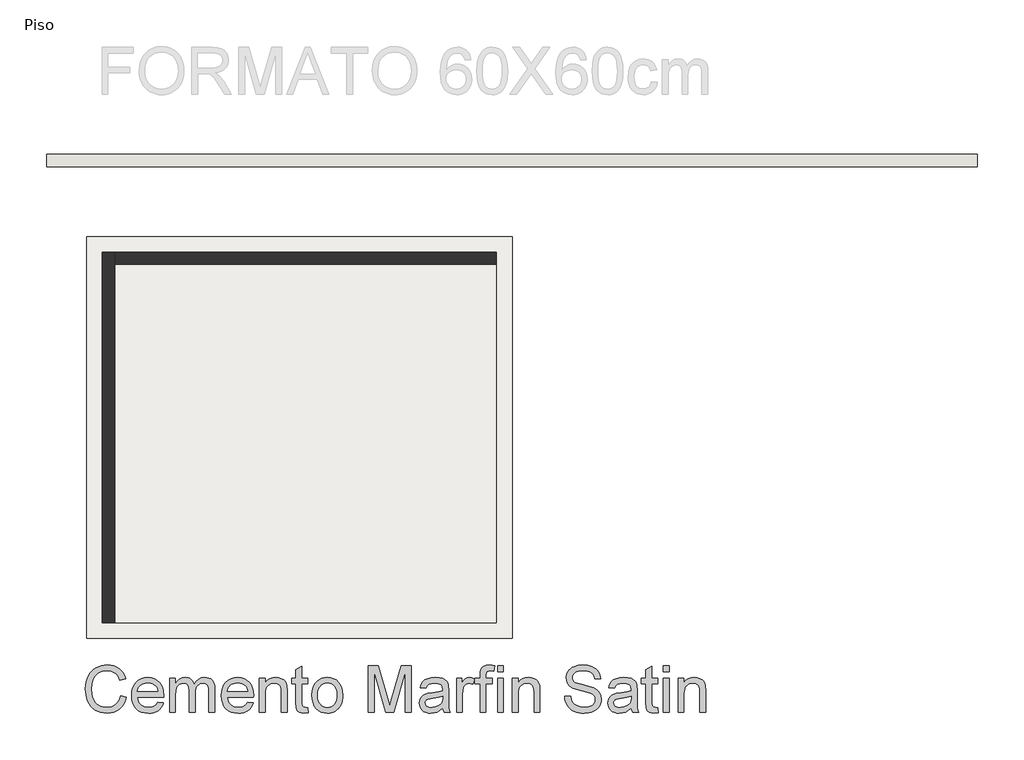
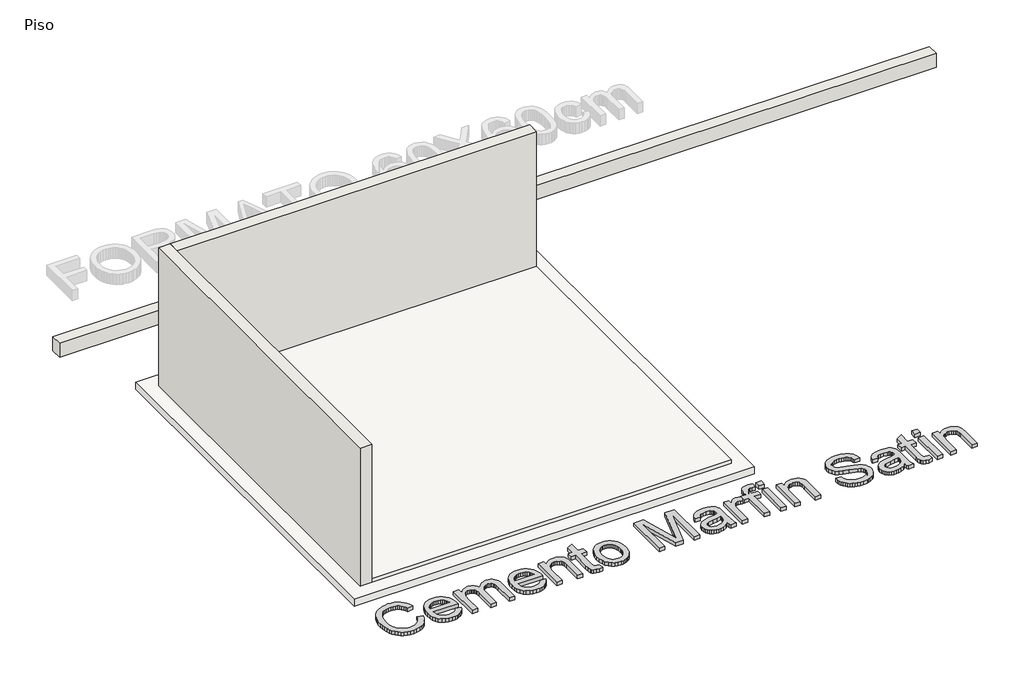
# One storey, part 1 of 2: 3 walls, 2 slabs, 1 proxy.
"""IFC4 building model written with IfcOpenShell, lengths in millimetres."""

import ifcopenshell
import ifcopenshell.guid

model = None  # the IFC model being written
_history = None  # IfcOwnerHistory: only IFC2X3 demands one
_inside = {}  # id of a spatial element -> (the spatial element, [elements in it])
_under = {}  # id of a project, library or spatial element -> (it, [spatial elements below it])
_declared = {}  # id of a project -> (the project, [libraries it declares])
_typed = {}  # id of a type object -> (the type object, [elements of that type])
_made_of = {}  # id of a material, layer set ... -> (it, [elements and type objects made of it])


def new_model(schema):
    """Start an empty IFC model of exactly this schema.

    Asked for "IFC4X3", IfcOpenShell would pick the latest addendum, in which some entities
    have other attributes; the version numbers below select the first issue.
    IFC2X3 requires an IfcOwnerHistory on every rooted entity: one is made here for all.
    """
    global model, _history
    if schema == "IFC4X3":
        model = ifcopenshell.file(schema_version=(4, 3, 0, 0))
    else:
        model = ifcopenshell.file(schema=schema)
    _inside.clear()
    _under.clear()
    _declared.clear()
    _typed.clear()
    _made_of.clear()
    _history = None
    if model.schema == "IFC2X3":
        org = make("IfcOrganization", Name="unknown")
        user = make(
            "IfcPersonAndOrganization",
            ThePerson=make("IfcPerson", FamilyName="unknown"),
            TheOrganization=org,
        )
        app = make(
            "IfcApplication",
            ApplicationDeveloper=org,
            Version="unknown",
            ApplicationFullName="unknown",
            ApplicationIdentifier="unknown",
        )
        _history = make(
            "IfcOwnerHistory",
            OwningUser=user,
            OwningApplication=app,
            ChangeAction="ADDED",
            CreationDate=0,
        )
    return model


def make(cls, **values):
    """One entity of the class cls with the attributes given. An attribute that is None is left unset."""
    return model.create_entity(
        cls, **{name: value for name, value in values.items() if value is not None}
    )


def rooted(cls, **values):
    """An entity with a GlobalId (a new one), such as an element, a storey or a relation."""
    return make(cls, GlobalId=ifcopenshell.guid.new(), OwnerHistory=_history, **values)


def si_unit(unit_type, name, prefix=None):
    """IfcSIUnit, for example si_unit("LENGTHUNIT", "METRE", prefix="MILLI")."""
    return make("IfcSIUnit", UnitType=unit_type, Prefix=prefix, Name=name)


def assignment(units):
    """IfcUnitAssignment: the units of a project."""
    return None if units is None else make("IfcUnitAssignment", Units=units)


def point(xyz):
    """IfcCartesianPoint."""
    return None if xyz is None else make("IfcCartesianPoint", Coordinates=xyz)


def direction(xyz):
    """IfcDirection."""
    return None if xyz is None else make("IfcDirection", DirectionRatios=xyz)


def frame(location, z_axis=None, x_axis=None):
    """IfcAxis2Placement3D, a coordinate frame: its origin and axes. An axis left out is left unset."""
    return make(
        "IfcAxis2Placement3D",
        Location=point(location),
        Axis=direction(z_axis),
        RefDirection=direction(x_axis),
    )


def origin():
    """The frame at (0, 0, 0) with its axes left unset."""
    return frame((0.0, 0.0, 0.0))


def origin_with_axes():
    """The frame at (0, 0, 0) with the z axis (0, 0, 1) and the x axis (1, 0, 0) written out."""
    return frame((0.0, 0.0, 0.0), z_axis=(0.0, 0.0, 1.0), x_axis=(1.0, 0.0, 0.0))


def place(relative_to, where):
    """IfcLocalPlacement: puts the frame where relative to a parent placement (None: the world)."""
    return make(
        "IfcLocalPlacement", PlacementRelTo=relative_to, RelativePlacement=where
    )


def context(
    kind, dimensions, precision=None, world=None, true_north=None, identifier=None
):
    """IfcGeometricRepresentationContext, for example the 3D "Model" context."""
    return make(
        "IfcGeometricRepresentationContext",
        ContextIdentifier=identifier,
        ContextType=kind,
        CoordinateSpaceDimension=dimensions,
        Precision=precision,
        WorldCoordinateSystem=world,
        TrueNorth=true_north,
    )


def project(units=None, contexts=None):
    """IfcProject with its units and contexts."""
    return rooted(
        "IfcProject",
        Name="project",
        RepresentationContexts=contexts,
        UnitsInContext=assignment(units),
    )


def spatial(cls, under=None, at=None, **own):
    """A site, building, storey or space (cls), placed at a placement, below another one or the project."""
    s = rooted(cls, ObjectPlacement=at, **own)
    if under is not None:
        _under.setdefault(under.id(), (under, []))[1].append(s)
    return s


def polyline(points):
    """IfcPolyline through the points."""
    return make("IfcPolyline", Points=[point(p) for p in points])


def outline(outer, holes=None, kind="AREA"):
    """IfcArbitraryClosedProfileDef: a profile drawn as a closed curve; with holes, ...WithVoids."""
    if holes is None:
        return make("IfcArbitraryClosedProfileDef", ProfileType=kind, OuterCurve=outer)
    return make(
        "IfcArbitraryProfileDefWithVoids",
        ProfileType=kind,
        OuterCurve=outer,
        InnerCurves=holes,
    )


def extrude(swept, where, along, depth):
    """IfcExtrudedAreaSolid: the profile swept, set in the frame where, extruded along a direction by depth."""
    return make(
        "IfcExtrudedAreaSolid",
        SweptArea=swept,
        Position=where,
        ExtrudedDirection=direction(along),
        Depth=depth,
    )


def faces_of(points, faces, orient=None, outer=None):
    """IfcFace entities. A face is a list of loops; a loop is a list of indices into points, from 0.

    orient and outer hold one flag for each loop. By default every Orientation is true, the
    first loop of a face is its IfcFaceOuterBound and the others are IfcFaceBound.
    """
    made = []
    for i, loops in enumerate(faces):
        bounds = []
        for j, loop in enumerate(loops):
            is_outer = j == 0 if outer is None else outer[i][j]
            bounds.append(
                make(
                    "IfcFaceOuterBound" if is_outer else "IfcFaceBound",
                    Bound=make("IfcPolyLoop", Polygon=[points[k] for k in loop]),
                    Orientation=True if orient is None else orient[i][j],
                )
            )
        made.append(make("IfcFace", Bounds=bounds))
    return made


def faceted_brep(points, faces, orient=None, outer=None, voids=None):
    """IfcFacetedBrep: a solid bounded by flat faces; with voids (closed shells), ...WithVoids."""
    shared = [point(p) for p in points]
    hull = make("IfcClosedShell", CfsFaces=faces_of(shared, faces, orient, outer))
    if voids is None:
        return make("IfcFacetedBrep", Outer=hull)
    return make(
        "IfcFacetedBrepWithVoids",
        Outer=hull,
        Voids=[
            make(cls, CfsFaces=faces_of(shared, fs, o, b)) for cls, fs, o, b in voids
        ],
    )


def shape(context_of_items, identifier, shape_type, items):
    """IfcShapeRepresentation: the items that make up one representation, for example the "Body"."""
    return make(
        "IfcShapeRepresentation",
        ContextOfItems=context_of_items,
        RepresentationIdentifier=identifier,
        RepresentationType=shape_type,
        Items=items,
    )


def made_of(thing, what):
    """Note that an element or type object is made of a material, layer set ...; save() writes the relation."""
    if what is not None:
        _made_of.setdefault(what.id(), (what, []))[1].append(thing)
    return thing


def element(
    cls,
    number,
    at=None,
    inside=None,
    cuts=None,
    type_object=None,
    material=None,
    context=None,
    identifier="Body",
    shape_type=None,
    held_by="IfcProductDefinitionShape",
    body=None,
    shapes=None,
    **own,
):
    """One element of the class cls, such as IfcWall. Its Tag is "e" and its number.

    at: its placement. inside: the storey or other place that contains it. cuts: it is an
    opening in that element (IfcRelVoidsElement). A single representation is given by context,
    identifier, shape_type and body (its items); several are given by shapes. held_by: the class
    of the entity that holds the representations. save() writes the other relations.
    """
    e = rooted(cls, Tag="e%d" % number, ObjectPlacement=at, **own)
    if body is not None:
        shapes = [shape(context, identifier, shape_type, body)]
    if shapes is not None:
        e.Representation = make(held_by, Representations=shapes)
    if inside is not None:
        _inside.setdefault(inside.id(), (inside, []))[1].append(e)
    if cuts is not None:
        rooted(
            "IfcRelVoidsElement", RelatingBuildingElement=cuts, RelatedOpeningElement=e
        )
    if type_object is not None:
        _typed.setdefault(type_object.id(), (type_object, []))[1].append(e)
    return made_of(e, material)


def aggregate(whole, parts):
    """IfcRelAggregates: a whole, such as a stair, and the parts it consists of."""
    return rooted("IfcRelAggregates", RelatingObject=whole, RelatedObjects=parts)


def save(model, path):
    """Write the relations noted so far, then the file.

    IfcRelAggregates (storeys below a building ...), IfcRelContainedInSpatialStructure (elements
    in a storey), IfcRelDefinesByType, IfcRelAssociatesMaterial and IfcRelDeclares: one each for
    every whole, place, type object, material and project.
    """
    for whole, parts in _under.values():
        aggregate(whole, parts)
    for where, things in _inside.values():
        rooted(
            "IfcRelContainedInSpatialStructure",
            RelatedElements=things,
            RelatingStructure=where,
        )
    for kind, things in _typed.values():
        rooted("IfcRelDefinesByType", RelatedObjects=things, RelatingType=kind)
    for what, things in _made_of.values():
        rooted("IfcRelAssociatesMaterial", RelatedObjects=things, RelatingMaterial=what)
    for by, libraries in _declared.values():
        rooted("IfcRelDeclares", RelatingContext=by, RelatedDefinitions=libraries)
    model.write(path)


model = new_model("IFC4")

# Units and contexts
model_context = context("Model", 3, world=origin())
ifc_project = project(units=[si_unit("LENGTHUNIT", "METRE", prefix="MILLI")], contexts=[model_context])

# Site, building, storey
site = spatial("IfcSite", under=ifc_project)
building = spatial("IfcBuilding", under=site)
storey = spatial("IfcBuildingStorey", under=building, Name="Piso", Elevation=0.0)

# Proxy
placement = place(None, origin())
element("IfcBuildingElementProxy", 1, Name="600mm Arial", ObjectType="600mm Arial", at=placement, inside=storey, context=model_context, shape_type="SweptSolid", body=[
    extrude(outline(polyline([(124840.8089965, -5054.9304605), (124916.1512291, -5074.3546298), (124901.2428113, -5121.2090004), (124881.3863806, -5162.149668), (124856.5819371, -5197.1766324), (124826.8294807, -5226.2898938), (124792.8003962, -5249.1767525), (124755.166068, -5265.5245086), (124713.9264964, -5275.3331623), (124669.0816812, -5278.6027136), (124623.1378185, -5276.1287071), (124581.6913132, -5268.7066879), (124544.7421653, -5256.3366558), (124512.2903748, -5239.0186109), (124483.8898848, -5217.0100705), (124459.0946383, -5190.5685521), (124437.9046354, -5159.6940557), (124420.319876, -5124.3865812), (124406.5105056, -5086.1728389), (124396.6466696, -5046.5795392), (124390.7283681, -5005.606682), (124388.7556009, -4963.2542673), (124390.9858854, -4917.8116438), (124397.6767392, -4875.3672586), (124408.8281622, -4835.9211117), (124424.4401544, -4799.473203), (124444.1632279, -4766.6259394), (124467.6478947, -4737.9817275), (124494.894155, -4713.5405675), (124525.9020087, -4693.3024592), (124559.6183935, -4677.4329497), (124594.9902473, -4666.0975857), (124632.0175702, -4659.2963673), (124670.700362, -4657.0292945), (124713.7931392, -4659.9631534), (124753.308264, -4668.7647301), (124789.2457364, -4683.4340247), (124821.6055564, -4703.9710371), (124849.8542951, -4729.8331413), (124873.4585236, -4760.4777115), (124892.4182419, -4795.9047477), (124906.7334501, -4836.1142498), (124831.3912174, -4854.0668911), (124819.5270231, -4824.4385949), (124805.2715958, -4799.1237151), (124788.6249355, -4778.1222517), (124769.5870423, -4761.4342047), (124748.0475514, -4748.7192833), (124723.8960985, -4739.6371965), (124697.1326833, -4734.1879445), (124667.757306, -4732.3715271), (124633.9581477, -4734.385681), (124603.046863, -4740.4281428), (124575.0234521, -4750.4989124), (124549.8879147, -4764.5979899), (124527.9575493, -4782.0907788), (124509.549654, -4802.3426826), (124494.6642287, -4825.3537014), (124483.3012736, -4851.1238352), (124468.8986935, -4906.2693462), (124464.0978335, -4963.1071145), (124469.7816103, -5032.710388), (124476.8863313, -5063.9803576), (124486.8329408, -5092.8958824), (124499.782387, -5118.8821468), (124515.8956184, -5141.3643353), (124535.1726349, -5160.3424477), (124557.6134366, -5175.8164841), (124582.1281731, -5187.8232327), (124607.6269939, -5196.3994817), (124634.109899, -5201.5452311), (124661.5768885, -5203.2604809), (124694.3321816, -5200.9244303), (124724.4663156, -5193.9162783), (124751.9792903, -5182.2360249), (124776.8711058, -5165.8836702), (124798.5531509, -5144.9327906), (124816.4368143, -5119.4569624), (124830.5220962, -5089.4561857), (124840.8089965, -5054.9304605)])), origin_with_axes(), (0.0, 0.0, 1.0), 50.0),
    extrude(outline(polyline([(125320.2328126, -5137.3360274), (125394.1035173, -5146.7538065), (125382.7773503, -5176.3407159), (125367.4872549, -5202.4143524), (125348.233231, -5224.9747157), (125325.0152786, -5244.021806), (125298.072521, -5259.1509531), (125267.6440814, -5269.9574867), (125233.72996, -5276.4414068), (125196.3301567, -5278.6027136), (125149.5815521, -5274.8733098), (125107.9281132, -5263.6850986), (125071.36984, -5245.03808), (125039.9067323, -5218.9322539), (125014.6056481, -5186.0941873), (124996.5334451, -5147.2504472), (124985.6901233, -5102.4010334), (124982.0756827, -5051.5459461), (124985.7269115, -4998.966412), (124996.6805979, -4952.6224776), (125014.9367419, -4912.5141431), (125040.4953435, -4878.6414084), (125071.8756777, -4851.7308404), (125107.5970194, -4832.5090062), (125147.6593687, -4820.9759057), (125192.0627255, -4817.1315388), (125235.0359411, -4820.9667086), (125273.8980753, -4832.472218), (125308.6491283, -4851.648067), (125339.2891, -4878.4942556), (125364.3004771, -4912.2934139), (125382.1657465, -4952.328172), (125392.8849082, -4998.59853), (125396.457962, -5051.1044877), (125396.0165036, -5071.4115739), (125057.4179153, -5071.4115739), (125061.7819155, -5101.4767299), (125070.459332, -5127.8078837), (125083.450165, -5150.4050353), (125100.7544143, -5169.2681846), (125121.4155869, -5184.1398142), (125144.4771894, -5194.7624069), (125169.939222, -5201.1359624), (125197.8016846, -5203.2604809), (125237.9008221, -5199.3241436), (125271.6723893, -5187.5151315), (125299.1163861, -5167.0976808), (125320.2328126, -5137.3360274)]), holes=[polyline([(125057.4179153, -4996.0693413), (125321.1157294, -4996.0693413), (125310.9253982, -4956.2645094), (125302.1606096, -4940.6111305), (125290.9494058, -4927.790443), (125270.4031964, -4912.3393992), (125247.0242956, -4901.3029393), (125220.8127034, -4894.6810634), (125191.7684199, -4892.4737714), (125165.2763177, -4894.2350065), (125140.9823105, -4899.5187116), (125118.8863982, -4908.3248869), (125098.9885807, -4920.6535322), (125082.2913367, -4935.9344306), (125069.7971444, -4953.5973649), (125061.506004, -4973.6423351), (125057.4179153, -4996.0693413)])]), origin_with_axes(), (0.0, 0.0, 1.0), 50.0),
    extrude(outline(polyline([(125471.8001947, -5269.1849345), (125471.8001947, -4826.5493179), (125547.1424273, -4826.5493179), (125547.1424273, -4899.3899529), (125569.8039582, -4865.9310855), (125598.9402122, -4839.7194933), (125633.5579079, -4822.7785274), (125672.663764, -4817.1315388), (125714.5655233, -4822.888892), (125732.398603, -4830.0855836), (125748.1531494, -4840.1609517), (125773.2427015, -4867.8072836), (125789.6502385, -4904.6874537), (125817.1126294, -4866.3817409), (125848.4377813, -4839.0205175), (125883.6256942, -4822.6037835), (125922.6763679, -4817.1315388), (125952.838093, -4819.4078086), (125979.3118011, -4826.2366182), (126002.0974922, -4837.6179674), (126021.1951663, -4853.5518563), (126036.2921236, -4874.2222259), (126047.0756646, -4899.8130172), (126053.5457892, -4930.3242302), (126055.7024974, -4965.7558649), (126055.7024974, -5269.1849345), (125980.3602648, -5269.1849345), (125980.3602648, -4998.1294804), (125978.6128253, -4960.5503346), (125973.3705069, -4935.2216593), (125963.5480576, -4917.8760232), (125948.0602256, -4904.2459953), (125928.1394156, -4895.4168274), (125905.0180322, -4892.4737714), (125883.6670809, -4894.3591666), (125864.2015248, -4900.0153523), (125846.621364, -4909.4423284), (125830.9265983, -4922.640095), (125818.0185388, -4939.9949281), (125808.7984963, -4961.8931039), (125803.2664708, -4988.3346223), (125801.4224623, -5019.3194834), (125801.4224623, -5269.1849345), (125726.0802297, -5269.1849345), (125726.0802297, -4989.7417709), (125721.7208281, -4947.1410359), (125716.271576, -4930.4207992), (125708.6426231, -4916.7539831), (125698.5304668, -4906.1313905), (125685.6316043, -4898.5438243), (125669.9460358, -4893.9912846), (125651.4737611, -4892.4737714), (125622.4478717, -4896.5204734), (125595.7028506, -4908.6605792), (125573.6299309, -4928.5997833), (125558.6203455, -4956.0437802), (125550.0119068, -4994.1195667), (125547.1424273, -5045.9541398), (125547.1424273, -5269.1849345), (125471.8001947, -5269.1849345)])), origin_with_axes(), (0.0, 0.0, 1.0), 50.0),
    extrude(outline(polyline([(126478.6196391, -5137.3360274), (126552.4903437, -5146.7538065), (126541.1641768, -5176.3407159), (126525.8740813, -5202.4143524), (126506.6200574, -5224.9747157), (126483.402105, -5244.021806), (126456.4593474, -5259.1509531), (126426.0309078, -5269.9574867), (126392.1167864, -5276.4414068), (126354.7169831, -5278.6027136), (126307.9683785, -5274.8733098), (126266.3149396, -5263.6850986), (126229.7566664, -5245.03808), (126198.2935587, -5218.9322539), (126172.9924745, -5186.0941873), (126154.9202715, -5147.2504472), (126144.0769497, -5102.4010334), (126140.4625091, -5051.5459461), (126144.1137379, -4998.966412), (126155.0674243, -4952.6224776), (126173.3235683, -4912.5141431), (126198.8821699, -4878.6414084), (126230.2625041, -4851.7308404), (126265.9838458, -4832.5090062), (126306.0461951, -4820.9759057), (126350.4495519, -4817.1315388), (126393.4227675, -4820.9667086), (126432.2849018, -4832.472218), (126467.0359547, -4851.648067), (126497.6759264, -4878.4942556), (126522.6873036, -4912.2934139), (126540.5525729, -4952.328172), (126551.2717346, -4998.59853), (126554.8447885, -5051.1044877), (126554.4033301, -5071.4115739), (126215.8047417, -5071.4115739), (126220.1687419, -5101.4767299), (126228.8461584, -5127.8078837), (126241.8369914, -5150.4050353), (126259.1412407, -5169.2681846), (126279.8024133, -5184.1398142), (126302.8640159, -5194.7624069), (126328.3260484, -5201.1359624), (126356.1885111, -5203.2604809), (126396.2876485, -5199.3241436), (126430.0592157, -5187.5151315), (126457.5032125, -5167.0976808), (126478.6196391, -5137.3360274)]), holes=[polyline([(126215.8047417, -4996.0693413), (126479.5025558, -4996.0693413), (126469.3122246, -4956.2645094), (126460.547436, -4940.6111305), (126449.3362322, -4927.790443), (126428.7900228, -4912.3393992), (126405.411122, -4901.3029393), (126379.1995299, -4894.6810634), (126350.1552463, -4892.4737714), (126323.6631442, -4894.2350065), (126299.3691369, -4899.5187116), (126277.2732246, -4908.3248869), (126257.3754072, -4920.6535322), (126240.6781631, -4935.9344306), (126228.1839708, -4953.5973649), (126219.8928304, -4973.6423351), (126215.8047417, -4996.0693413)])]), origin_with_axes(), (0.0, 0.0, 1.0), 50.0),
    extrude(outline(polyline([(126630.1870211, -5269.1849345), (126630.1870211, -4826.5493179), (126705.5292537, -4826.5493179), (126705.5292537, -4888.3534931), (126731.7040576, -4857.1938881), (126763.1395741, -4834.9370274), (126799.8358031, -4821.5829109), (126841.7927447, -4817.1315388), (126878.9304321, -4820.7183883), (126912.9411226, -4831.4789366), (126941.3048244, -4848.0704146), (126961.5015459, -4869.1500529), (126975.2051502, -4894.6626693), (126984.0895004, -4924.5530814), (126988.062626, -4997.3937164), (126988.062626, -5269.1849345), (126912.7203934, -5269.1849345), (126912.7203934, -5007.5472595), (126910.5498896, -4968.5885562), (126904.0383783, -4940.887042), (126892.0270311, -4921.0398083), (126873.3570199, -4905.6439468), (126849.4262961, -4895.7663153), (126821.6328114, -4892.4737714), (126798.7551498, -4894.3223784), (126777.505366, -4899.8681995), (126757.8834601, -4909.1112346), (126739.889432, -4922.0514838), (126724.856854, -4940.160475), (126714.1192983, -4964.9097363), (126707.6767648, -4996.2992675), (126705.5292537, -5034.3290688), (126705.5292537, -5269.1849345), (126630.1870211, -5269.1849345)])), origin_with_axes(), (0.0, 0.0, 1.0), 50.0),
    extrude(outline(polyline([(127251.7604401, -5206.3506897), (127261.1782192, -5271.3922264), (127204.8186975, -5278.6027136), (127168.6558974, -5275.4757166), (127141.6901472, -5266.0947257), (127122.6338598, -5251.6369633), (127110.1994484, -5233.2796517), (127103.3568433, -5201.7521648), (127101.0759749, -5147.7838761), (127101.0759749, -4901.8915505), (127044.5693004, -4901.8915505), (127044.5693004, -4826.5493179), (127101.0759749, -4826.5493179), (127101.0759749, -4718.9806225), (127176.4182075, -4674.6876303), (127176.4182075, -4826.5493179), (127251.7604401, -4826.5493179), (127251.7604401, -4901.8915505), (127176.4182075, -4901.8915505), (127176.4182075, -5145.5765841), (127180.3913331, -5184.4249228), (127193.2672029, -5198.1837094), (127204.1381158, -5201.9912881), (127218.9453661, -5203.2604809), (127251.7604401, -5206.3506897)])), origin_with_axes(), (0.0, 0.0, 1.0), 50.0),
    extrude(outline(polyline([(127308.2671146, -5047.8671262), (127312.3414077, -4990.5419143), (127324.564287, -4941.1445594), (127344.9357524, -4899.6750615), (127373.4558041, -4866.1334206), (127402.1689938, -4844.6950973), (127433.8620277, -4829.3820092), (127468.5349058, -4820.1941564), (127506.187628, -4817.1315388), (127547.7536949, -4820.8609425), (127585.3374392, -4832.0491537), (127618.938861, -4850.6961723), (127648.5579601, -4876.8019984), (127672.7324057, -4909.4837152), (127689.9998669, -4947.8584058), (127700.3603436, -4991.9260703), (127703.8138358, -5041.6867087), (127702.2871255, -5082.0157724), (127697.7069947, -5117.8014935), (127690.0734433, -5149.0438719), (127679.3864713, -5175.7429077), (127665.779436, -5198.8045103), (127649.3856946, -5219.134589), (127630.2052471, -5236.733144), (127608.2380934, -5251.6001751), (127584.3395593, -5263.4137857), (127559.3649704, -5271.8520789), (127533.3143266, -5276.9150549), (127506.187628, -5278.6027136), (127464.0145558, -5274.8871054), (127426.0813235, -5263.7402809), (127392.3879313, -5245.1622402), (127362.9343791, -5219.1529831), (127339.0174508, -5186.1539682), (127321.9339307, -5146.6066537), (127311.6838186, -5100.5110397), (127308.2671146, -5047.8671262)]), holes=[polyline([(127383.6093472, -5047.7199734), (127385.789048, -5084.2644511), (127392.3281505, -5115.9069012), (127403.2266546, -5142.6473237), (127418.4845603, -5164.4857186), (127437.044207, -5181.4496771), (127457.8479338, -5193.5667904), (127480.8957408, -5200.8370583), (127506.187628, -5203.2604809), (127531.3507565, -5200.8232627), (127554.306593, -5193.5116081), (127575.0551375, -5181.325517), (127593.59639, -5164.2649895), (127608.8542958, -5142.2104638), (127619.7527999, -5115.0423785), (127626.2919024, -5082.7607334), (127628.4716032, -5045.3655286), (127626.2781068, -5009.9798792), (127619.6976176, -4979.1651636), (127608.7301356, -4952.9213817), (127593.3756608, -4931.2485337), (127574.7654304, -4914.2845752), (127554.0306815, -4902.167462), (127531.171414, -4894.8971941), (127506.187628, -4892.4737714), (127480.8957408, -4894.887997), (127457.8479338, -4902.1306738), (127437.044207, -4914.2018018), (127418.4845603, -4931.1013809), (127403.2266546, -4952.8753965), (127392.3281505, -4979.5698338), (127385.789048, -5011.1846927), (127383.6093472, -5047.7199734)])]), origin_with_axes(), (0.0, 0.0, 1.0), 50.0),
    extrude(outline(polyline([(128033.4361035, -5269.1849345), (128033.4361035, -4666.4470736), (128163.0777186, -4666.4470736), (128286.3917634, -5091.2772016), (128311.2605862, -5180.0103388), (128338.1895483, -5083.9195617), (128459.4434539, -4666.4470736), (128589.085069, -4666.4470736), (128589.085069, -5269.1849345), (128513.7428364, -5269.1849345), (128513.7428364, -4741.7893062), (128362.3226072, -5269.1849345), (128260.1985653, -5269.1849345), (128108.7783361, -4741.7893062), (128108.7783361, -5269.1849345), (128033.4361035, -5269.1849345)])), origin_with_axes(), (0.0, 0.0, 1.0), 50.0),
    extrude(outline(polyline([(128994.0495693, -5212.67826), (128958.052316, -5243.5435594), (128920.988205, -5263.7402809), (128882.0111076, -5274.8871054), (128840.2748953, -5278.6027136), (128806.7286559, -5276.3678304), (128777.3118918, -5269.6631811), (128752.0246032, -5258.4887655), (128730.8667899, -5242.8445836), (128714.1603488, -5223.7239169), (128702.2271766, -5202.1200468), (128695.0672733, -5178.0329731), (128692.6806388, -5151.462696), (128696.2858824, -5120.2295146), (128707.101613, -5091.8658128), (128723.7850615, -5067.5856011), (128744.9934585, -5048.6028902), (128769.9174637, -5034.2554924), (128797.7477366, -5023.8812201), (128862.9364262, -5012.5504546), (128939.970916, -5000.631078), (128993.6081109, -4986.6515622), (128994.0495693, -4969.8761432), (128988.8624331, -4936.2517288), (128982.378513, -4923.7989233), (128973.3010247, -4914.2523855), (128957.6108577, -4904.7242419), (128938.499388, -4897.9184249), (128890.012541, -4892.4737714), (128845.1309376, -4896.0974091), (128813.7873916, -4906.968322), (128792.4134477, -4927.0730731), (128777.4406505, -4958.3982249), (128702.0984179, -4948.9804459), (128715.1766228, -4907.7776624), (128734.6927627, -4875.4040468), (128762.4678533, -4850.6455886), (128800.3229106, -4832.288277), (128846.6208597, -4820.9207234), (128899.7246257, -4817.1315388), (128950.6578879, -4820.479265), (128991.0329369, -4830.5224434), (129021.475172, -4845.6239993), (129042.6099926, -4864.1468578), (129056.6262967, -4887.047512), (129065.7129819, -4915.2824551), (129069.3918019, -4981.2069087), (129069.3918019, -5074.943241), (129073.2177746, -5205.8356549), (129078.8831574, -5238.1908764), (129088.22736, -5269.1849345), (129012.8851274, -5269.1849345), (129000.818598, -5242.9917364), (128994.0495693, -5212.67826)]), holes=[polyline([(128994.0495693, -5061.9937948), (128943.4290067, -5074.5385708), (128872.5013581, -5085.0967841), (128807.6805505, -5097.3104663), (128790.813161, -5105.6613876), (128778.3235673, -5117.1760941), (128770.5980454, -5130.9716689), (128768.0228714, -5146.1651953), (128773.6330719, -5168.5692088), (128790.4636731, -5186.9265204), (128818.1467933, -5199.1769908), (128856.3145503, -5203.2604809), (128896.7815697, -5198.7539265), (128932.5396997, -5185.2342632), (128961.5288009, -5165.3134531), (128981.6887342, -5141.6034585), (128990.6282667, -5117.1760941), (128993.6081109, -5083.3309505), (128994.0495693, -5061.9937948)])]), origin_with_axes(), (0.0, 0.0, 1.0), 50.0),
    extrude(outline(polyline([(129474.3563022, -5269.1849345), (129474.3563022, -4901.8915505), (129408.4318486, -4901.8915505), (129408.4318486, -4840.3816809), (129408.4318486, -4826.5493179), (129474.3563022, -4826.5493179), (129474.3563022, -4781.9620201), (129476.342865, -4745.0634559), (129482.3025533, -4719.1277753), (129497.4592915, -4694.0750114), (129520.8565864, -4674.2461719), (129553.5980839, -4661.3335138), (129596.7874302, -4657.0292945), (129629.4921395, -4659.0894337), (129665.5077869, -4665.2698512), (129654.471327, -4735.9031943), (129611.0612516, -4732.3715271), (129582.4216383, -4735.4985241), (129563.6044742, -4744.8795149), (129553.1750196, -4762.7953681), (129549.6985348, -4791.5269519), (129549.6985348, -4826.5493179), (129634.4585465, -4826.5493179), (129634.4585465, -4901.8915505), (129549.6985348, -4901.8915505), (129549.6985348, -5269.1849345), (129474.3563022, -5269.1849345)])), origin_with_axes(), (0.0, 0.0, 1.0), 50.0),
    extrude(outline(polyline([(129172.9873717, -5269.1849345), (129172.9873717, -4826.5493179), (129238.9118253, -4826.5493179), (129238.9118253, -4892.032313), (129263.2656133, -4854.0668911), (129285.7064151, -4831.6996658), (129308.2207932, -4820.7735706), (129332.7953104, -4817.1315388), (129370.3192739, -4822.9440743), (129408.4318486, -4840.3816809), (129383.2687202, -4907.9248152), (129356.7812165, -4896.3365324), (129330.2937129, -4892.4737714), (129307.7977289, -4896.1893796), (129287.6929778, -4907.336204), (129271.4509877, -4925.0681162), (129260.5432866, -4948.5389875), (129251.3830249, -4990.6246877), (129248.3296043, -5036.5363607), (129248.3296043, -5269.1849345), (129172.9873717, -5269.1849345)])), origin_with_axes(), (0.0, 0.0, 1.0), 50.0),
    extrude(outline(polyline([(129700.383, -4741.7893062), (129700.383, -4666.4470736), (129775.7252326, -4666.4470736), (129775.7252326, -4741.7893062), (129700.383, -4741.7893062)])), origin_with_axes(), (0.0, 0.0, 1.0), 50.0),
    extrude(outline(polyline([(129700.383, -5269.1849345), (129700.383, -4826.5493179), (129775.7252326, -4826.5493179), (129775.7252326, -5269.1849345), (129700.383, -5269.1849345)])), origin_with_axes(), (0.0, 0.0, 1.0), 50.0),
    extrude(outline(polyline([(129888.7385815, -5269.1849345), (129888.7385815, -4826.5493179), (129964.0808142, -4826.5493179), (129964.0808142, -4888.3534931), (129990.2556181, -4857.1938881), (130021.6911346, -4834.9370274), (130058.3873636, -4821.5829109), (130100.3443052, -4817.1315388), (130137.4819926, -4820.7183883), (130171.492683, -4831.4789366), (130199.8563849, -4848.0704146), (130220.0531064, -4869.1500529), (130233.7567107, -4894.6626693), (130242.6410609, -4924.5530814), (130246.6141865, -4997.3937164), (130246.6141865, -5269.1849345), (130171.2719538, -5269.1849345), (130171.2719538, -5007.5472595), (130169.1014501, -4968.5885562), (130162.5899388, -4940.887042), (130150.5785916, -4921.0398083), (130131.9085804, -4905.6439468), (130107.9778566, -4895.7663153), (130080.1843718, -4892.4737714), (130057.3067103, -4894.3223784), (130036.0569265, -4899.8681995), (130016.4350206, -4909.1112346), (129998.4409925, -4922.0514838), (129983.4084145, -4940.160475), (129972.6708587, -4964.9097363), (129966.2283253, -4996.2992675), (129964.0808142, -5034.3290688), (129964.0808142, -5269.1849345), (129888.7385815, -5269.1849345)])), origin_with_axes(), (0.0, 0.0, 1.0), 50.0),
    extrude(outline(polyline([(130566.8186751, -5061.9937948), (130642.1609077, -5061.9937948), (130650.8061346, -5103.8035835), (130666.4411193, -5137.4096038), (130690.8316956, -5164.0810485), (130725.743697, -5185.0871104), (130768.4180084, -5198.7171383), (130816.095515, -5203.2604809), (130858.0708506, -5199.8207843), (130894.822262, -5189.5016943), (130924.6023095, -5173.1677337), (130945.6635537, -5151.6834252), (130958.1899356, -5127.0169374), (130962.3653963, -5101.1364391), (130959.2383993, -5075.9181283), (130949.8574084, -5054.1211201), (130930.8011211, -5035.5246852), (130898.6482347, -5019.9080945), (130788.9458237, -4991.1397225), (130716.9329232, -4972.1018293), (130670.8557033, -4953.983641), (130633.3501339, -4928.6365715), (130606.7706597, -4897.9184249), (130590.9333398, -4862.4913888), (130585.6542332, -4823.0176507), (130587.2867096, -4800.5814475), (130592.1841386, -4778.8902054), (130600.3465204, -4757.9439243), (130611.7738549, -4737.7426042), (130626.3373833, -4719.1093812), (130643.9083471, -4702.8673911), (130664.4867462, -4689.016634), (130688.0725807, -4677.5571098), (130741.0843762, -4662.1612483), (130799.7615544, -4657.0292945), (130863.3315632, -4662.4003716), (130918.9553208, -4678.513603), (130943.2907148, -4690.5157531), (130964.6462646, -4705.0378949), (130983.0219703, -4722.0800283), (130998.4178318, -4741.6421534), (131010.7142875, -4763.1540531), (131019.7917757, -4786.0455102), (131025.6502965, -4810.3165248), (131028.2898498, -4835.967097), (130952.9476172, -4835.967097), (130947.9076339, -4811.9260086), (130939.1152542, -4791.0119171), (130926.5704781, -4773.2248227), (130910.2733058, -4758.5647252), (130889.9202344, -4747.105201), (130865.2077613, -4738.9198266), (130836.1358867, -4734.008602), (130802.7046104, -4732.3715271), (130768.2064763, -4733.9902079), (130738.7299314, -4738.8462502), (130714.2749758, -4746.9396541), (130694.8416094, -4758.2704196), (130680.0343591, -4771.8912504), (130669.4577517, -4786.8548506), (130663.1117873, -4803.16122), (130660.9964658, -4820.8103588), (130662.4955849, -4835.9946881), (130666.9929423, -4849.7626718), (130674.488538, -4862.1143098), (130684.9823719, -4873.0496021), (130701.5002735, -4883.4054802), (130727.5095305, -4893.871723), (130808.0021111, -4915.1353023), (130891.0698656, -4935.3320239), (130941.3225461, -4952.9535714), (130984.2727691, -4980.2872037), (131000.8780426, -4996.3544498), (131014.2367576, -5014.0219826), (131024.5052638, -5033.1978316), (131031.8399111, -5053.7900263), (131037.7076289, -5099.2234527), (131036.0199702, -5122.790893), (131030.9569943, -5145.6685546), (131022.518701, -5167.8564374), (131010.7050904, -5189.3545415), (130995.7230962, -5209.3305339), (130977.7796519, -5226.9520814), (130956.8747575, -5242.2191842), (130933.0084131, -5255.1318423), (130906.8749958, -5265.4003484), (130879.1688831, -5272.7349957), (130819.0385709, -5278.6027136), (130780.4983334, -5277.020821), (130745.2230486, -5272.2751432), (130713.2127165, -5264.3656803), (130684.4673371, -5253.2924323), (130658.8121665, -5239.037005), (130636.0724606, -5221.5810043), (130616.2482196, -5200.9244303), (130599.3394434, -5177.0672829), (130585.7186126, -5150.7821143), (130575.7582075, -5122.8414768), (130569.4582284, -5093.2453703), (130566.8186751, -5061.9937948)])), origin_with_axes(), (0.0, 0.0, 1.0), 50.0),
    extrude(outline(polyline([(131423.836571, -5212.67826), (131387.8393178, -5243.5435594), (131350.7752068, -5263.7402809), (131311.7981094, -5274.8871054), (131270.061897, -5278.6027136), (131236.5156576, -5276.3678304), (131207.0988936, -5269.6631811), (131181.8116049, -5258.4887655), (131160.6537917, -5242.8445836), (131143.9473506, -5223.7239169), (131132.0141783, -5202.1200468), (131124.854275, -5178.0329731), (131122.4676406, -5151.462696), (131126.0728841, -5120.2295146), (131136.8886148, -5091.8658128), (131153.5720633, -5067.5856011), (131174.7804603, -5048.6028902), (131199.7044655, -5034.2554924), (131227.5347384, -5023.8812201), (131292.7234279, -5012.5504546), (131369.7579177, -5000.631078), (131423.3951126, -4986.6515622), (131423.836571, -4969.8761432), (131418.6494349, -4936.2517288), (131412.1655147, -4923.7989233), (131403.0880265, -4914.2523855), (131387.3978594, -4904.7242419), (131368.2863897, -4897.9184249), (131319.7995428, -4892.4737714), (131274.9179394, -4896.0974091), (131243.5743934, -4906.968322), (131222.2004495, -4927.0730731), (131207.2276523, -4958.3982249), (131131.8854196, -4948.9804459), (131144.9636246, -4907.7776624), (131164.4797644, -4875.4040468), (131192.2548551, -4850.6455886), (131230.1099124, -4832.288277), (131276.4078615, -4820.9207234), (131329.5116275, -4817.1315388), (131380.4448897, -4820.479265), (131420.8199387, -4830.5224434), (131451.2621738, -4845.6239993), (131472.3969944, -4864.1468578), (131486.4132984, -4887.047512), (131495.4999837, -4915.2824551), (131499.1788036, -4981.2069087), (131499.1788036, -5074.943241), (131503.0047764, -5205.8356549), (131508.6701591, -5238.1908764), (131518.0143618, -5269.1849345), (131442.6721292, -5269.1849345), (131430.6055997, -5242.9917364), (131423.836571, -5212.67826)]), holes=[polyline([(131423.836571, -5061.9937948), (131373.2160085, -5074.5385708), (131302.2883598, -5085.0967841), (131237.4675523, -5097.3104663), (131220.6001628, -5105.6613876), (131208.110569, -5117.1760941), (131200.3850471, -5130.9716689), (131197.8098732, -5146.1651953), (131203.4200736, -5168.5692088), (131220.2506749, -5186.9265204), (131247.933795, -5199.1769908), (131286.101552, -5203.2604809), (131326.5685715, -5198.7539265), (131362.3267014, -5185.2342632), (131391.3158026, -5165.3134531), (131411.475736, -5141.6034585), (131420.4152685, -5117.1760941), (131423.3951126, -5083.3309505), (131423.836571, -5061.9937948)])]), origin_with_axes(), (0.0, 0.0, 1.0), 50.0),
    extrude(outline(polyline([(131762.8766178, -5206.3506897), (131772.2943968, -5271.3922264), (131715.9348752, -5278.6027136), (131679.7720751, -5275.4757166), (131652.8063248, -5266.0947257), (131633.7500375, -5251.6369633), (131621.315626, -5233.2796517), (131614.4730209, -5201.7521648), (131612.1921525, -5147.7838761), (131612.1921525, -4901.8915505), (131555.6854781, -4901.8915505), (131555.6854781, -4826.5493179), (131612.1921525, -4826.5493179), (131612.1921525, -4718.9806225), (131687.5343852, -4674.6876303), (131687.5343852, -4826.5493179), (131762.8766178, -4826.5493179), (131762.8766178, -4901.8915505), (131687.5343852, -4901.8915505), (131687.5343852, -5145.5765841), (131691.5075107, -5184.4249228), (131704.3833805, -5198.1837094), (131715.2542935, -5201.9912881), (131730.0615438, -5203.2604809), (131762.8766178, -5206.3506897)])), origin_with_axes(), (0.0, 0.0, 1.0), 50.0),
    extrude(outline(polyline([(131838.2188504, -4741.7893062), (131838.2188504, -4666.4470736), (131913.561083, -4666.4470736), (131913.561083, -4741.7893062), (131838.2188504, -4741.7893062)])), origin_with_axes(), (0.0, 0.0, 1.0), 50.0),
    extrude(outline(polyline([(131838.2188504, -5269.1849345), (131838.2188504, -4826.5493179), (131913.561083, -4826.5493179), (131913.561083, -5269.1849345), (131838.2188504, -5269.1849345)])), origin_with_axes(), (0.0, 0.0, 1.0), 50.0),
    extrude(outline(polyline([(132026.5744319, -5269.1849345), (132026.5744319, -4826.5493179), (132101.9166645, -4826.5493179), (132101.9166645, -4888.3534931), (132128.0914685, -4857.1938881), (132159.526985, -4834.9370274), (132196.223214, -4821.5829109), (132238.1801555, -4817.1315388), (132275.317843, -4820.7183883), (132309.3285334, -4831.4789366), (132337.6922352, -4848.0704146), (132357.8889568, -4869.1500529), (132371.5925611, -4894.6626693), (132380.4769113, -4924.5530814), (132384.4500368, -4997.3937164), (132384.4500368, -5269.1849345), (132309.1078042, -5269.1849345), (132309.1078042, -5007.5472595), (132306.9373004, -4968.5885562), (132300.4257891, -4940.887042), (132288.414442, -4921.0398083), (132269.7444307, -4905.6439468), (132245.8137069, -4895.7663153), (132218.0202222, -4892.4737714), (132195.1425606, -4894.3223784), (132173.8927769, -4899.8681995), (132154.270871, -4909.1112346), (132136.2768429, -4922.0514838), (132121.2442648, -4940.160475), (132110.5067091, -4964.9097363), (132104.0641757, -4996.2992675), (132101.9166645, -5034.3290688), (132101.9166645, -5269.1849345), (132026.5744319, -5269.1849345)])), origin_with_axes(), (0.0, 0.0, 1.0), 50.0),
])

# Slabs
element("IfcSlab", 2, ObjectType="5cm - Porcelanato Cemento Marfin Satin  - Acetinado 60X60", at=placement, inside=storey, context=model_context, shape_type="SweptSolid", body=[
    extrude(outline(polyline([(129686.699165, 506.9486968), (129686.699165, -4113.6513032), (124766.099165, -4113.6513032), (124766.099165, 506.9486968), (129686.699165, 506.9486968)])), origin_with_axes(), (0.0, 0.0, 1.0), 50.0),
])
element("IfcSlab", 3, ObjectType="CO02 - Concreto Estrutural Simples", at=placement, inside=storey, context=model_context, shape_type="SweptSolid", body=[
    extrude(outline(polyline([(129886.699165, 865.7486968), (129886.699165, -4313.6513032), (124407.299165, -4313.6513032), (124407.299165, 865.7486968), (129886.699165, 865.7486968)])), frame((0.0, 0.0, -100.0), z_axis=(0.0, 0.0, 1.0), x_axis=(1.0, 0.0, 0.0)), (0.0, 0.0, 1.0), 100.0),
])

# Walls
element("IfcWall", 4, ObjectType="CO01 - Bloco de Concreto 14cm / Pintura Branca Simples", at=placement, inside=storey, context=model_context, shape_type="SweptSolid", body=[
    extrude(outline(polyline([(135886.699165, 1765.7486968), (123886.699165, 1765.7486968), (123886.699165, 1924.5486968), (135886.699165, 1924.5486968), (135886.699165, 1765.7486968)])), origin_with_axes(), (0.0, 0.0, 1.0), 200.0),
])
element("IfcWall", 5, ObjectType="CO01 - Bloco de Concreto 14cm / Pintura Branca Simples", at=placement, inside=storey, context=model_context, shape_type="Brep", body=[
    faceted_brep([(124766.099165, -4113.6513032, 0.0), (124766.099165, 506.9486968, 0.0), (124766.099165, 665.7486968, 0.0), (124766.099165, 665.7486968, 2000.0), (124766.099165, 506.9486968, 2000.0), (124766.099165, -4113.6513032, 2000.0), (124607.299165, -4113.6513032, 0.0), (124607.299165, -4113.6513032, 2000.0), (124607.299165, 665.7486968, 2000.0), (124607.299165, 665.7486968, 0.0)], [[[0, 1, 2, 3, 4, 5]], [[6, 7, 8, 9]], [[2, 1, 0, 6, 9]], [[5, 4, 3, 8, 7]], [[0, 5, 7, 6]], [[3, 2, 9, 8]]]),
])
element("IfcWall", 6, ObjectType="CO01 - Bloco de Concreto 14cm / Pintura Branca Simples", at=placement, inside=storey, context=model_context, shape_type="SweptSolid", body=[
    extrude(outline(polyline([(129686.699165, 506.9486968), (124766.099165, 506.9486968), (124766.099165, 665.7486968), (129686.699165, 665.7486968), (129686.699165, 506.9486968)])), origin_with_axes(), (0.0, 0.0, 1.0), 2000.0),
])

save(model, "model.ifc")
